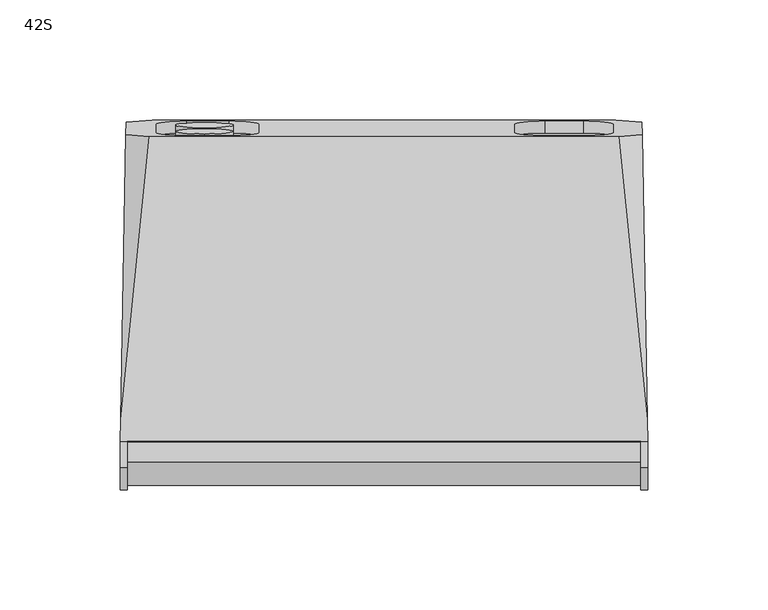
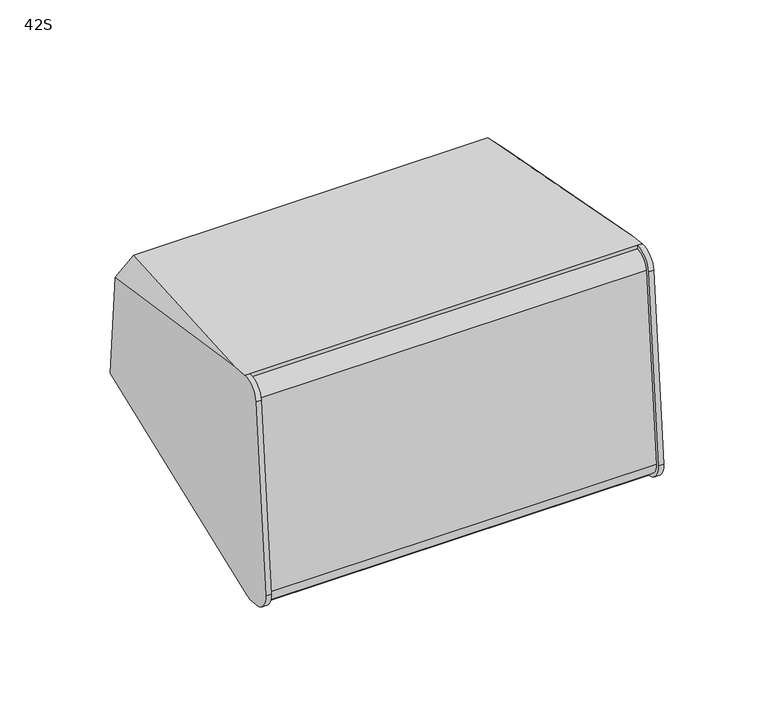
"""IFC4 building model written with IfcOpenShell, lengths in millimetres: proxy geometry, d&b xS-Series 42S Point Source : 42S."""

from ifc_helpers import new_model, si_unit, point, frame, frame_2d, origin, place, context, project, spatial, polyline, circle_curve, ellipse_curve, trimmed, segment, composite_curve, outline, extrude, source, transform, mapped, element, save
from ifc_brep_helpers import plane_surface, cylinder_surface, revolved_surface, advanced_brep


def proxy_42s_42be1cfc(model_context):
    return source(origin(), model_context, "Body", "SolidModel", [
        advanced_brep(
        [(107.0, -60.1708825, 69.5087397), (-107.0, -60.1708825, 69.5087397), (-107.0, -60.3414006, 67.5597089), (107.0, -60.3414006, 67.5597089), (-107.0, -68.97039, 60.3191271), (107.0, -68.97039, 60.3191271), (-107.0, -78.3900458, -47.3480309), (107.0, -78.3900458, -47.3480309), (-107.0, -71.1177341, -56.0148344), (107.0, -71.1177341, -56.0148344), (-107.0, -71.2920456, -58.0072238), (107.0, -71.2920456, -58.0072238), (-109.8273531, -71.2920456, -58.0072238), (-109.7253263, -65.3844214, -58.524074), (109.7253263, -65.3844214, -58.524074), (109.8273531, -71.2920456, -58.0072238), (109.8279536, -60.1708825, 69.5087397), (109.6679034, -50.9035477, 68.697953), (97.8946622, 66.9696957, 58.3853804), (-97.8946622, 66.9696957, 58.3853804), (-109.6679034, -50.9035477, 68.697953), (-109.8279536, -60.1708825, 69.5087397), (-96.5142171, 73.9330723, -21.2063779), (96.5142171, 73.9330723, -21.2063779), (109.6679034, -61.9536331, -57.6051002), (-109.6679034, -61.9536331, -57.6051002), (107.602215, 67.8441588, 48.3902218), (-107.602215, 67.8441588, 48.3902218), (-107.4240938, 73.0404758, -11.003953), (107.4240938, 73.0404758, -11.003953), (109.9986507, -70.9194208, 60.4896452), (109.9993995, -80.3824352, -47.1737194), (-109.9993995, -80.3824352, -47.1737194), (-109.9993995, -70.9627794, 60.4934386), (107.0, -80.3824352, -47.1737194), (107.0, -70.9627794, 60.4934386), (95.447753, 68.6358128, 39.3415759), (82.947753, 67.546366, 51.7940096), (67.052247, 67.546366, 51.7940096), (54.552247, 68.6358128, 39.3415759), (54.552247, 72.2602275, -2.0856741), (67.052247, 73.3496743, -14.5381078), (82.947753, 73.3496743, -14.5381078), (95.447753, 72.2602275, -2.0856741), (-52.1, 68.6358128, 39.3415759), (-64.6, 67.546366, 51.7940096), (-82.4, 67.546366, 51.7940096), (-94.9, 68.6358128, 39.3415759), (-94.9, 72.2602275, -2.0856741), (-82.4, 73.3496743, -14.5381078), (-64.6, 73.3496743, -14.5381078), (-52.1, 72.2602275, -2.0856741), (95.447753, 63.6548393, 38.9057972), (95.447753, 67.279254, -2.5214528), (82.947753, 68.3687008, -14.9738865), (67.052247, 68.3687008, -14.9738865), (54.552247, 67.279254, -2.5214528), (54.552247, 63.6548393, 38.9057972), (67.052247, 62.5653925, 51.3582309), (82.947753, 62.5653925, 51.3582309), (-52.1, 63.6548393, 38.9057972), (-52.1, 67.279254, -2.5214528), (-64.6, 68.3687008, -14.9738865), (-82.4, 68.3687008, -14.9738865), (-94.9, 67.279254, -2.5214528), (-94.9, 63.6548393, 38.9057972), (-82.4, 62.5653925, 51.3582309), (-64.6, 62.5653925, 51.3582309), (-107.0, -70.9194208, 60.4896452), (-107.0, -80.3824352, -47.1737194)],
        [
            (0, 1),
            (1, 2),
            (2, 3),
            (3, 0),
            (2, 4, circle_curve(frame((-107.0, -61.0356044, 59.6249233), z_axis=(1.0, 0.0, 0.0), x_axis=(0.0, 0.08715574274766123, 0.9961946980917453)), 7.9650952)),
            (4, 5),
            (5, 3, circle_curve(frame((107.0, -61.0356044, 59.6249233), z_axis=(-1.0, 0.0, 0.0), x_axis=(0.0, 0.08715574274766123, 0.9961946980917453)), 7.9650952)),
            (4, 6),
            (6, 7),
            (7, 5),
            (6, 8, circle_curve(frame((-107.0, -70.4204882, -48.0452768), z_axis=(1.0, 0.0, 0.0), x_axis=(0.0, 0.08715574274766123, 0.9961946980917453)), 8.0)),
            (8, 9),
            (9, 7, circle_curve(frame((107.0, -70.4204882, -48.0452768), z_axis=(-1.0, 0.0, 0.0), x_axis=(0.0, 0.08715574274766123, 0.9961946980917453)), 8.0)),
            (8, 10),
            (10, 11),
            (11, 9),
            (10, 12),
            (12, 13),
            (13, 14),
            (14, 15),
            (15, 11),
            (0, 16),
            (16, 17),
            (17, 18),
            (18, 19),
            (19, 20),
            (20, 21),
            (21, 1),
            (22, 23),
            (23, 24),
            (24, 14),
            (13, 25),
            (25, 22),
            (26, 18),
            (17, 26),
            (19, 27),
            (27, 20),
            (28, 22),
            (25, 28),
            (23, 29),
            (29, 24),
            (29, 26),
            (16, 30, ellipse_curve(frame((109.8279536, -61.0356044, 59.6249233), z_axis=(0.9998520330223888, 0.01713663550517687, -0.0014992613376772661), x_axis=(0.017202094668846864, -0.9960472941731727, 0.08714284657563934)), 9.9230392, 9.921571)),
            (30, 31),
            (31, 15, ellipse_curve(frame((109.8273531, -70.4204882, -48.0452768), z_axis=(0.9998520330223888, 0.01713663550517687, -0.0014992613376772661), x_axis=(0.017202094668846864, -0.9960472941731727, 0.08714284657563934)), 10.0014799, 10.0)),
            (12, 32, ellipse_curve(frame((-109.8273531, -70.4204882, -48.0452768), z_axis=(-0.999852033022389, 0.01713663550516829, -0.0014992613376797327), x_axis=(0.01720209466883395, 0.9960472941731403, -0.08714284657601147)), 10.0014799, 10.0)),
            (32, 33),
            (33, 21, ellipse_curve(frame((-109.8279536, -61.0356044, 59.6249233), z_axis=(-0.999852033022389, 0.01713663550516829, -0.0014992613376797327), x_axis=(0.01720209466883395, 0.9960472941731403, -0.08714284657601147)), 9.9230392, 9.921571)),
            (27, 28),
            (11, 34, circle_curve(frame((107.0, -70.4204882, -48.0452768), z_axis=(-1.0, 0.0, 0.0), x_axis=(0.0, 0.08715574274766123, 0.9961946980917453)), 10.0)),
            (34, 35),
            (35, 0, circle_curve(frame((107.0, -61.0356044, 59.6249233), z_axis=(-1.0, 0.0, 0.0), x_axis=(0.0, 0.08715574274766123, 0.9961946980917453)), 9.921571)),
            (35, 30),
            (34, 31),
            (36, 37, circle_curve(frame((82.947753, 68.6358128, 39.3415759), z_axis=(0.0, -0.9961946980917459, -0.08715574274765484), x_axis=(0.0, 0.08715574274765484, -0.9961946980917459)), 12.5)),
            (37, 38),
            (38, 39, circle_curve(frame((67.052247, 68.6358128, 39.3415759), z_axis=(0.0, -0.9961946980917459, -0.08715574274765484), x_axis=(0.0, 0.08715574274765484, -0.9961946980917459)), 12.5)),
            (39, 40),
            (40, 41, circle_curve(frame((67.052247, 72.2602275, -2.0856741), z_axis=(0.0, -0.9961946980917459, -0.08715574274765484), x_axis=(0.0, 0.08715574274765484, -0.9961946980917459)), 12.5)),
            (41, 42),
            (42, 43, circle_curve(frame((82.947753, 72.2602275, -2.0856741), z_axis=(0.0, -0.9961946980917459, -0.08715574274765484), x_axis=(0.0, 0.08715574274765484, -0.9961946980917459)), 12.5)),
            (43, 36),
            (44, 45, circle_curve(frame((-64.6, 68.6358128, 39.3415759), z_axis=(0.0, -0.9961946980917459, -0.08715574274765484), x_axis=(0.0, 0.08715574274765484, -0.9961946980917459)), 12.5)),
            (45, 46),
            (46, 47, circle_curve(frame((-82.4, 68.6358128, 39.3415759), z_axis=(0.0, -0.9961946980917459, -0.08715574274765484), x_axis=(0.0, 0.08715574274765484, -0.9961946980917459)), 12.5)),
            (47, 48),
            (48, 49, circle_curve(frame((-82.4, 72.2602275, -2.0856741), z_axis=(0.0, -0.9961946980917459, -0.08715574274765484), x_axis=(0.0, 0.08715574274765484, -0.9961946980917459)), 12.5)),
            (49, 50),
            (50, 51, circle_curve(frame((-64.6, 72.2602275, -2.0856741), z_axis=(0.0, -0.9961946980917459, -0.08715574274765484), x_axis=(0.0, 0.08715574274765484, -0.9961946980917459)), 12.5)),
            (51, 44),
            (52, 53),
            (53, 54, circle_curve(frame((82.947753, 67.279254, -2.5214528), z_axis=(0.0, 0.9961946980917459, 0.08715574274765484), x_axis=(0.0, 0.08715574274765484, -0.9961946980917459)), 12.5)),
            (54, 55),
            (55, 56, circle_curve(frame((67.052247, 67.279254, -2.5214528), z_axis=(0.0, 0.9961946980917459, 0.08715574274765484), x_axis=(0.0, 0.08715574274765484, -0.9961946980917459)), 12.5)),
            (56, 57),
            (57, 58, circle_curve(frame((67.052247, 63.6548393, 38.9057972), z_axis=(0.0, 0.9961946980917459, 0.08715574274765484), x_axis=(0.0, 0.08715574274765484, -0.9961946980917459)), 12.5)),
            (58, 59),
            (59, 52, circle_curve(frame((82.947753, 63.6548393, 38.9057972), z_axis=(0.0, 0.9961946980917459, 0.08715574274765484), x_axis=(0.0, 0.08715574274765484, -0.9961946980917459)), 12.5)),
            (60, 61),
            (61, 62, circle_curve(frame((-64.6, 67.279254, -2.5214528), z_axis=(0.0, 0.9961946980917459, 0.08715574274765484), x_axis=(0.0, 0.08715574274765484, -0.9961946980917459)), 12.5)),
            (62, 63),
            (63, 64, circle_curve(frame((-82.4, 67.279254, -2.5214528), z_axis=(0.0, 0.9961946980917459, 0.08715574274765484), x_axis=(0.0, 0.08715574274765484, -0.9961946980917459)), 12.5)),
            (64, 65),
            (65, 66, circle_curve(frame((-82.4, 63.6548393, 38.9057972), z_axis=(0.0, 0.9961946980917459, 0.08715574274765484), x_axis=(0.0, 0.08715574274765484, -0.9961946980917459)), 12.5)),
            (66, 67),
            (67, 60, circle_curve(frame((-64.6, 63.6548393, 38.9057972), z_axis=(0.0, 0.9961946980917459, 0.08715574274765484), x_axis=(0.0, 0.08715574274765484, -0.9961946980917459)), 12.5)),
            (1, 68, circle_curve(frame((-107.0, -61.0356044, 59.6249233), z_axis=(1.0, 0.0, 0.0), x_axis=(0.0, 0.08715574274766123, 0.9961946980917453)), 9.921571)),
            (68, 69),
            (69, 10, circle_curve(frame((-107.0, -70.4204882, -48.0452768), z_axis=(1.0, 0.0, 0.0), x_axis=(0.0, 0.08715574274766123, 0.9961946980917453)), 10.0)),
            (33, 68),
            (32, 69),
            (59, 37),
            (36, 52),
            (58, 38),
            (57, 39),
            (56, 40),
            (55, 41),
            (54, 42),
            (53, 43),
            (67, 45),
            (44, 60),
            (66, 46),
            (65, 47),
            (64, 48),
            (63, 49),
            (62, 50),
            (61, 51),
        ],
        [
            plane_surface(frame((107.0, -60.1708825, 69.5087397), z_axis=(0.0, -0.9961946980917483, 0.08715574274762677), x_axis=(-1.0, 0.0, 0.0))),
            cylinder_surface(frame((-107.0, -61.0356044, 59.6249233), z_axis=(1.0, 0.0, 0.0), x_axis=(0.0, 0.08715574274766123, 0.9961946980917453)), 7.9650952),
            plane_surface(frame((107.0, -68.97039, 60.3191271), z_axis=(0.0, -0.996194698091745, 0.08715574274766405), x_axis=(-1.0, 0.0, 0.0))),
            cylinder_surface(frame((-107.0, -70.4204882, -48.0452768), z_axis=(1.0, 0.0, 0.0), x_axis=(0.0, 0.08715574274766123, 0.9961946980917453)), 8.0),
            plane_surface(frame((107.0, -71.1177341, -56.0148344), z_axis=(0.0, -0.9961946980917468, 0.08715574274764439), x_axis=(-1.0, 0.0, 0.0))),
            plane_surface(frame((107.0, -71.2920456, -58.0072238), z_axis=(0.0, -0.08715574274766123, -0.9961946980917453), x_axis=(-1.0, 0.0, 0.0))),
            plane_surface(frame((107.0, -54.2284863, 68.9888474), z_axis=(0.0, 0.08715574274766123, 0.9961946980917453), x_axis=(-1.0, 0.0, 0.0))),
            plane_surface(frame((0.0, 74.4470346, -21.0687075), z_axis=(0.0, 0.2587393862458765, -0.965947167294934), x_axis=(1.0, 0.0, 0.0))),
            plane_surface(frame((103.232233, 80.6989148, 50.3906107), z_axis=(0.7053631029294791, 0.13139331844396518, 0.6965620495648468), x_axis=(-0.7071067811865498, 0.06162841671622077, 0.7044160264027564))),
            plane_surface(frame((-103.232233, 80.6989148, 50.3906107), z_axis=(-0.7053631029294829, 0.13139331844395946, 0.6965620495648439), x_axis=(-0.7071067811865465, -0.061628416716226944, -0.7044160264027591))),
            plane_surface(frame((-103.232233, 75.0368843, -14.326694), z_axis=(-0.6719558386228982, 0.25161941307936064, -0.696536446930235), x_axis=(0.7071067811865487, -0.06162841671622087, -0.7044160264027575))),
            plane_surface(frame((103.232233, 75.0368843, -14.326694), z_axis=(0.671955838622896, 0.251619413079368, -0.6965364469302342), x_axis=(0.7071067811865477, 0.06162841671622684, 0.7044160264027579))),
            plane_surface(frame((110.3665166, -105.6486643, -91.1389233), z_axis=(0.9998520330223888, 0.01713663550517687, -0.0014992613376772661), x_axis=(0.0, 0.08715574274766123, 0.9961946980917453))),
            plane_surface(frame((-107.2474477, 74.9537717, -106.9395891), z_axis=(-0.999852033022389, 0.01713663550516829, -0.0014992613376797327), x_axis=(0.0, 0.08715574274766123, 0.9961946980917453))),
            plane_surface(frame((107.0, -60.1708825, 69.5087397), z_axis=(-1.0000000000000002, 0.0, 0.0), x_axis=(0.0, 0.9961946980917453, -0.08715574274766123))),
            cylinder_surface(frame((107.0, -61.0356044, 59.6249233), z_axis=(1.0, 0.0, 0.0), x_axis=(0.0, 0.08715574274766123, 0.9961946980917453)), 9.921571),
            plane_surface(frame((112.6426388, -70.9627794, 60.4934386), z_axis=(0.0, -0.996194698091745, 0.08715574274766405), x_axis=(-1.0, 0.0, 0.0))),
            cylinder_surface(frame((107.0, -70.4204882, -48.0452768), z_axis=(1.0, 0.0, 0.0), x_axis=(0.0, 0.08715574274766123, 0.9961946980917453)), 10.0),
            plane_surface(frame((250.0, 65.4423104, 75.8434744), z_axis=(0.0, 0.9961946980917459, 0.08715574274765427), x_axis=(-1.0, 0.0, 0.0))),
            plane_surface(frame((82.947753, 64.7442861, 26.4533634), z_axis=(0.0, 0.9961946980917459, 0.08715574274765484), x_axis=(1.0, 0.0, 0.0))),
            plane_surface(frame((-107.0, -60.1708825, 69.5087397), z_axis=(1.0000000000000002, 0.0, 0.0), x_axis=(0.0, -0.9961946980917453, 0.08715574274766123))),
            cylinder_surface(frame((-113.0, -61.0356044, 59.6249233), z_axis=(1.0, 0.0, 0.0), x_axis=(0.0, 0.08715574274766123, 0.9961946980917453)), 9.921571),
            plane_surface(frame((-107.0, -70.9627794, 60.4934386), z_axis=(0.0, -0.996194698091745, 0.08715574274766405), x_axis=(-1.0, 0.0, 0.0))),
            cylinder_surface(frame((-113.0, -70.4204882, -48.0452768), z_axis=(1.0, 0.0, 0.0), x_axis=(0.0, 0.08715574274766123, 0.9961946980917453)), 10.0),
            revolved_surface(polyline([(82.947753, 64.74428606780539, 26.453363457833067), (82.947753, 69.72525958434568, 26.88914217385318)]), (82.947753, 68.6358128, 39.3415759), (0.0, -0.9961946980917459, -0.08715574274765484)),
            plane_surface(frame((82.947753, 62.5653925, 51.3582309), z_axis=(0.0, 0.08715574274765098, -0.9961946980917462), x_axis=(0.0, 0.9961946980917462, 0.08715574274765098))),
            revolved_surface(polyline([(67.052247, 64.74428606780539, 26.453363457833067), (67.052247, 69.72525958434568, 26.88914217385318)]), (67.052247, 68.6358128, 39.3415759), (0.0, -0.9961946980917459, -0.08715574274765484)),
            plane_surface(frame((54.552247, 63.6548393, 38.9057972), z_axis=(1.0000000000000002, 0.0, 0.0), x_axis=(0.0, 0.9961946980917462, 0.08715574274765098))),
            revolved_surface(polyline([(67.052247, 68.36870078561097, -14.973886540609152), (67.052247, 73.34967430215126, -14.538107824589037)]), (67.052247, 72.2602275, -2.0856741), (0.0, -0.9961946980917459, -0.08715574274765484)),
            plane_surface(frame((67.052247, 68.3687008, -14.9738865), z_axis=(0.0, -0.08715574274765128, 0.9961946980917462), x_axis=(0.0, 0.9961946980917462, 0.08715574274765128))),
            revolved_surface(polyline([(82.947753, 68.36870078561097, -14.973886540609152), (82.947753, 73.34967430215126, -14.538107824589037)]), (82.947753, 72.2602275, -2.0856741), (0.0, -0.9961946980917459, -0.08715574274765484)),
            plane_surface(frame((95.447753, 67.279254, -2.5214528), z_axis=(-1.0000000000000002, 0.0, 0.0), x_axis=(0.0, 0.9961946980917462, 0.08715574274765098))),
            revolved_surface(polyline([(-64.6, 64.74428606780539, 26.453363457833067), (-64.6, 69.72525958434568, 26.88914217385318)]), (-64.6, 68.6358128, 39.3415759), (0.0, -0.9961946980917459, -0.08715574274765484)),
            plane_surface(frame((-64.6, 62.5653925, 51.3582309), z_axis=(0.0, 0.08715574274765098, -0.9961946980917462), x_axis=(0.0, 0.9961946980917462, 0.08715574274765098))),
            revolved_surface(polyline([(-82.4, 64.74428606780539, 26.453363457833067), (-82.4, 69.72525958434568, 26.88914217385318)]), (-82.4, 68.6358128, 39.3415759), (0.0, -0.9961946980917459, -0.08715574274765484)),
            plane_surface(frame((-94.9, 63.6548393, 38.9057972), z_axis=(1.0000000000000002, 0.0, 0.0), x_axis=(0.0, 0.9961946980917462, 0.08715574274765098))),
            revolved_surface(polyline([(-82.4, 68.36870078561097, -14.973886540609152), (-82.4, 73.34967430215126, -14.538107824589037)]), (-82.4, 72.2602275, -2.0856741), (0.0, -0.9961946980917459, -0.08715574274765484)),
            plane_surface(frame((-82.4, 68.3687008, -14.9738865), z_axis=(0.0, -0.08715574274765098, 0.9961946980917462), x_axis=(0.0, 0.9961946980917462, 0.08715574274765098))),
            revolved_surface(polyline([(-64.6, 68.36870078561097, -14.973886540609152), (-64.6, 73.34967430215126, -14.538107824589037)]), (-64.6, 72.2602275, -2.0856741), (0.0, -0.9961946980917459, -0.08715574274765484)),
            plane_surface(frame((-52.1, 67.279254, -2.5214528), z_axis=(-1.0000000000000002, 0.0, 0.0), x_axis=(0.0, 0.9961946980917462, 0.08715574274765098))),
        ],
        [
            (0, [[1, 2, 3, 4]]),
            (1, [[-3, 5, 6, 7]]),
            (2, [[-6, 8, 9, 10]]),
            (3, [[-9, 11, 12, 13]]),
            (4, [[-12, 14, 15, 16]]),
            (5, [[-15, 17, 18, 19, 20, 21]]),
            (6, [[-1, 22, 23, 24, 25, 26, 27, 28]]),
            (7, [[29, 30, 31, -19, 32, 33]]),
            (8, [[34, -24, 35]]),
            (9, [[-26, 36, 37]]),
            (10, [[38, -33, 39]]),
            (11, [[-30, 40, 41]]),
            (12, [[-20, -31, -41, 42, -35, -23, 43, 44, 45]]),
            (13, [[-18, 46, 47, 48, -27, -37, 49, -39, -32]]),
            (14, [[50, 51, 52, -4, -7, -10, -13, -16]]),
            (15, [[-52, 53, -43, -22]]),
            (16, [[-51, 54, -44, -53]]),
            (17, [[-50, -21, -45, -54]]),
            (18, [[-25, -34, -42, -40, -29, -38, -49, -36], [55, 56, 57, 58, 59, 60, 61, 62], [63, 64, 65, 66, 67, 68, 69, 70]]),
            (19, [[71, 72, 73, 74, 75, 76, 77, 78]]),
            (19, [[79, 80, 81, 82, 83, 84, 85, 86]]),
            (20, [[87, 88, 89, -14, -11, -8, -5, -2]]),
            (21, [[-87, -28, -48, 90]]),
            (22, [[-88, -90, -47, 91]]),
            (23, [[-89, -91, -46, -17]]),
            (24, [[-78, 92, -55, 93]]),
            (25, [[-77, 94, -56, -92]]),
            (26, [[-76, 95, -57, -94]]),
            (27, [[-75, 96, -58, -95]]),
            (28, [[-74, 97, -59, -96]]),
            (29, [[-73, 98, -60, -97]]),
            (30, [[-72, 99, -61, -98]]),
            (31, [[-71, -93, -62, -99]]),
            (32, [[-86, 100, -63, 101]]),
            (33, [[-85, 102, -64, -100]]),
            (34, [[-84, 103, -65, -102]]),
            (35, [[-83, 104, -66, -103]]),
            (36, [[-82, 105, -67, -104]]),
            (37, [[-81, 106, -68, -105]]),
            (38, [[-80, 107, -69, -106]]),
            (39, [[-79, -101, -70, -107]]),
        ],
    ),
        extrude(outline(composite_curve([segment(trimmed(circle_curve(frame_2d((0.0, -11.9999999)), 12.0), [point((0.0, -23.9999999))], [point((0.0, 0.0))], False, "CARTESIAN"), True, "CONTINUOUS"), segment(trimmed(circle_curve(frame_2d((0.0, -11.9999999)), 12.0), [point((0.0, 0.0))], [point((0.0, -23.9999999))], False, "CARTESIAN"), True, "CONTINUOUS")], self_intersect=False)), frame((-74.8471384, 63.1174153, 45.0485817), z_axis=(0.0, 0.9961946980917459, 0.08715574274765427), x_axis=(-1.0, 0.0, 0.0)), (0.0, 0.0, 1.0), 5.0),
        extrude(outline(composite_curve([segment(trimmed(circle_curve(frame_2d((0.0, -42.0)), 12.0), [point((0.0, -54.0))], [point((0.0, -30.0))], False, "CARTESIAN"), True, "CONTINUOUS"), segment(trimmed(circle_curve(frame_2d((0.0, -42.0)), 12.0), [point((0.0, -30.0))], [point((0.0, -54.0))], False, "CARTESIAN"), True, "CONTINUOUS")], self_intersect=False)), frame((-74.8471384, 63.1174153, 45.0485817), z_axis=(0.0, 0.9961946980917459, 0.08715574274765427), x_axis=(-1.0, 0.0, 0.0)), (0.0, 0.0, 1.0), 5.0),
    ])


if __name__ == "__main__":
    model = new_model("IFC4")
    model_context = context("Model", 3, world=origin())
    ifc_project = project(units=[si_unit("LENGTHUNIT", "METRE", prefix="MILLI")], contexts=[model_context])
    site = spatial("IfcSite", under=ifc_project)
    building = spatial("IfcBuilding", under=site)
    placement = place(None, origin())
    proxy_42s_shape = proxy_42s_42be1cfc(model_context)
    element("IfcBuildingElementProxy", 1, Name="d&b xS-Series 42S Point Source : 42S", ObjectType="d&b xS-Series 42S Point Source : 42S", at=placement, inside=building, context=model_context, shape_type="MappedRepresentation", body=[
        mapped(proxy_42s_shape, transform((0.0, 0.0, 0.0), x_axis=(1.0, 0.0, 0.0), y_axis=(0.0, 1.0, 0.0), z_axis=(0.0, 0.0, 1.0))),
    ])
    save(model, "model.ifc")
